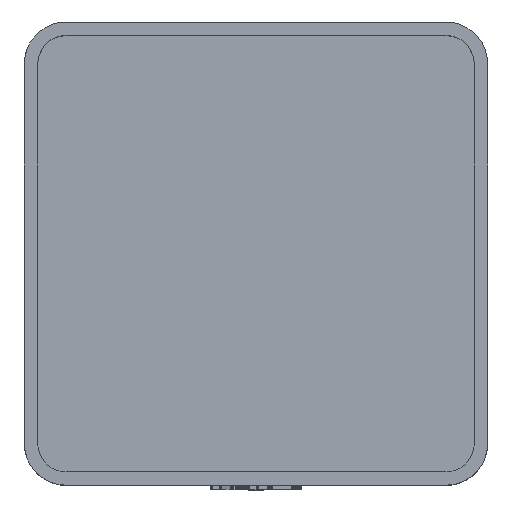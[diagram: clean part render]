
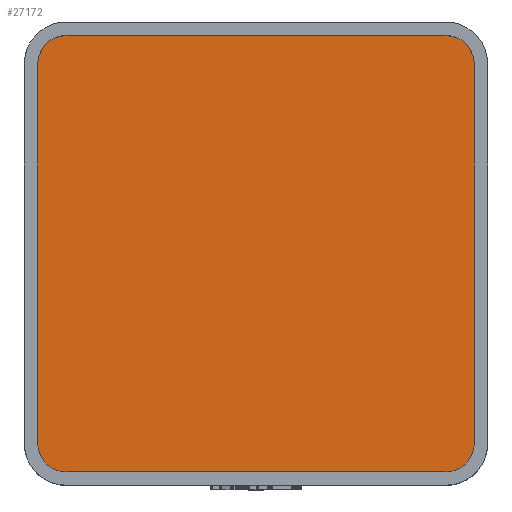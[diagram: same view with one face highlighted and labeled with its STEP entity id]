
A CAD part, top view. The second image highlights one B-rep face of the part: STEP entity #27172.
In plain terms, the highlighted planar face has unit normal (0, 0, 1).
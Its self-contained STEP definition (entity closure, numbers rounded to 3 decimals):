
#1442 = PLANE('',#1443);
#1443 = AXIS2_PLACEMENT_3D('',#1444,#1445,#1446);
#1444 = CARTESIAN_POINT('',(-19.55,-17.,4.75));
#1445 = DIRECTION('',(-1.,0.,0.));
#1446 = DIRECTION('',(0.,1.,0.));
#1474 = CYLINDRICAL_SURFACE('',#1475,2.55);
#1475 = AXIS2_PLACEMENT_3D('',#1476,#1477,#1478);
#1476 = CARTESIAN_POINT('',(-17.,17.,4.75));
#1477 = DIRECTION('',(-0.,-0.,-1.));
#1478 = DIRECTION('',(1.,0.,0.));
#1501 = PLANE('',#1502);
#1502 = AXIS2_PLACEMENT_3D('',#1503,#1504,#1505);
#1503 = CARTESIAN_POINT('',(-17.,19.55,4.75));
#1504 = DIRECTION('',(0.,1.,0.));
#1505 = DIRECTION('',(1.,0.,0.));
#1533 = CYLINDRICAL_SURFACE('',#1534,2.55);
#1534 = AXIS2_PLACEMENT_3D('',#1535,#1536,#1537);
#1535 = CARTESIAN_POINT('',(17.,17.,4.75));
#1536 = DIRECTION('',(-0.,-0.,-1.));
#1537 = DIRECTION('',(1.,0.,0.));
#1560 = PLANE('',#1561);
#1561 = AXIS2_PLACEMENT_3D('',#1562,#1563,#1564);
#1562 = CARTESIAN_POINT('',(19.55,-17.,4.75));
#1563 = DIRECTION('',(-1.,0.,0.));
#1564 = DIRECTION('',(0.,1.,0.));
#1592 = CYLINDRICAL_SURFACE('',#1593,2.55);
#1593 = AXIS2_PLACEMENT_3D('',#1594,#1595,#1596);
#1594 = CARTESIAN_POINT('',(17.,-17.,4.75));
#1595 = DIRECTION('',(-0.,-0.,-1.));
#1596 = DIRECTION('',(1.,0.,0.));
#1619 = PLANE('',#1620);
#1620 = AXIS2_PLACEMENT_3D('',#1621,#1622,#1623);
#1621 = CARTESIAN_POINT('',(-17.,-19.55,4.75));
#1622 = DIRECTION('',(0.,1.,0.));
#1623 = DIRECTION('',(1.,0.,0.));
#1649 = CYLINDRICAL_SURFACE('',#1650,2.55);
#1650 = AXIS2_PLACEMENT_3D('',#1651,#1652,#1653);
#1651 = CARTESIAN_POINT('',(-17.,-17.,4.75));
#1652 = DIRECTION('',(-0.,-0.,-1.));
#1653 = DIRECTION('',(1.,0.,0.));
#10443 = EDGE_CURVE('',#10444,#10446,#10448,.T.);
#10444 = VERTEX_POINT('',#10445);
#10445 = CARTESIAN_POINT('',(-19.55,-17.,4.75));
#10446 = VERTEX_POINT('',#10447);
#10447 = CARTESIAN_POINT('',(-19.55,17.,4.75));
#10448 = SURFACE_CURVE('',#10449,(#10453,#10460),.PCURVE_S1.);
#10449 = LINE('',#10450,#10451);
#10450 = CARTESIAN_POINT('',(-19.55,0.,4.75));
#10451 = VECTOR('',#10452,1.);
#10452 = DIRECTION('',(0.,1.,0.));
#10453 = PCURVE('',#1442,#10454);
#10454 = DEFINITIONAL_REPRESENTATION('',(#10455),#10459);
#10455 = LINE('',#10456,#10457);
#10456 = CARTESIAN_POINT('',(17.,0.));
#10457 = VECTOR('',#10458,1.);
#10458 = DIRECTION('',(1.,0.));
#10459 = ( GEOMETRIC_REPRESENTATION_CONTEXT(2) 
PARAMETRIC_REPRESENTATION_CONTEXT() REPRESENTATION_CONTEXT('2D SPACE',''
  ) );
#10460 = PCURVE('',#10461,#10466);
#10461 = PLANE('',#10462);
#10462 = AXIS2_PLACEMENT_3D('',#10463,#10464,#10465);
#10463 = CARTESIAN_POINT('',(0.,0.,4.75
    ));
#10464 = DIRECTION('',(0.,0.,1.));
#10465 = DIRECTION('',(1.,0.,-0.));
#10466 = DEFINITIONAL_REPRESENTATION('',(#10467),#10471);
#10467 = LINE('',#10468,#10469);
#10468 = CARTESIAN_POINT('',(-19.55,0.));
#10469 = VECTOR('',#10470,1.);
#10470 = DIRECTION('',(0.,1.));
#10471 = ( GEOMETRIC_REPRESENTATION_CONTEXT(2) 
PARAMETRIC_REPRESENTATION_CONTEXT() REPRESENTATION_CONTEXT('2D SPACE',''
  ) );
#10519 = EDGE_CURVE('',#10444,#10520,#10522,.T.);
#10520 = VERTEX_POINT('',#10521);
#10521 = CARTESIAN_POINT('',(-17.,-19.55,4.75));
#10522 = SURFACE_CURVE('',#10523,(#10528,#10535),.PCURVE_S1.);
#10523 = CIRCLE('',#10524,2.55);
#10524 = AXIS2_PLACEMENT_3D('',#10525,#10526,#10527);
#10525 = CARTESIAN_POINT('',(-17.,-17.,4.75));
#10526 = DIRECTION('',(0.,0.,1.));
#10527 = DIRECTION('',(1.,0.,0.));
#10528 = PCURVE('',#1649,#10529);
#10529 = DEFINITIONAL_REPRESENTATION('',(#10530),#10534);
#10530 = LINE('',#10531,#10532);
#10531 = CARTESIAN_POINT('',(-0.,0.));
#10532 = VECTOR('',#10533,1.);
#10533 = DIRECTION('',(-1.,0.));
#10534 = ( GEOMETRIC_REPRESENTATION_CONTEXT(2) 
PARAMETRIC_REPRESENTATION_CONTEXT() REPRESENTATION_CONTEXT('2D SPACE',''
  ) );
#10535 = PCURVE('',#10461,#10536);
#10536 = DEFINITIONAL_REPRESENTATION('',(#10537),#10541);
#10537 = CIRCLE('',#10538,2.55);
#10538 = AXIS2_PLACEMENT_2D('',#10539,#10540);
#10539 = CARTESIAN_POINT('',(-17.,-17.));
#10540 = DIRECTION('',(1.,0.));
#10541 = ( GEOMETRIC_REPRESENTATION_CONTEXT(2) 
PARAMETRIC_REPRESENTATION_CONTEXT() REPRESENTATION_CONTEXT('2D SPACE',''
  ) );
#10569 = EDGE_CURVE('',#10520,#10570,#10572,.T.);
#10570 = VERTEX_POINT('',#10571);
#10571 = CARTESIAN_POINT('',(17.,-19.55,4.75));
#10572 = SURFACE_CURVE('',#10573,(#10577,#10584),.PCURVE_S1.);
#10573 = LINE('',#10574,#10575);
#10574 = CARTESIAN_POINT('',(0.,-19.55,4.75));
#10575 = VECTOR('',#10576,1.);
#10576 = DIRECTION('',(1.,0.,0.));
#10577 = PCURVE('',#1619,#10578);
#10578 = DEFINITIONAL_REPRESENTATION('',(#10579),#10583);
#10579 = LINE('',#10580,#10581);
#10580 = CARTESIAN_POINT('',(17.,0.));
#10581 = VECTOR('',#10582,1.);
#10582 = DIRECTION('',(1.,0.));
#10583 = ( GEOMETRIC_REPRESENTATION_CONTEXT(2) 
PARAMETRIC_REPRESENTATION_CONTEXT() REPRESENTATION_CONTEXT('2D SPACE',''
  ) );
#10584 = PCURVE('',#10461,#10585);
#10585 = DEFINITIONAL_REPRESENTATION('',(#10586),#10590);
#10586 = LINE('',#10587,#10588);
#10587 = CARTESIAN_POINT('',(0.,-19.55));
#10588 = VECTOR('',#10589,1.);
#10589 = DIRECTION('',(1.,0.));
#10590 = ( GEOMETRIC_REPRESENTATION_CONTEXT(2) 
PARAMETRIC_REPRESENTATION_CONTEXT() REPRESENTATION_CONTEXT('2D SPACE',''
  ) );
#10618 = EDGE_CURVE('',#10570,#10619,#10621,.T.);
#10619 = VERTEX_POINT('',#10620);
#10620 = CARTESIAN_POINT('',(19.55,-17.,4.75));
#10621 = SURFACE_CURVE('',#10622,(#10627,#10634),.PCURVE_S1.);
#10622 = CIRCLE('',#10623,2.55);
#10623 = AXIS2_PLACEMENT_3D('',#10624,#10625,#10626);
#10624 = CARTESIAN_POINT('',(17.,-17.,4.75));
#10625 = DIRECTION('',(0.,0.,1.));
#10626 = DIRECTION('',(1.,0.,0.));
#10627 = PCURVE('',#1592,#10628);
#10628 = DEFINITIONAL_REPRESENTATION('',(#10629),#10633);
#10629 = LINE('',#10630,#10631);
#10630 = CARTESIAN_POINT('',(-0.,0.));
#10631 = VECTOR('',#10632,1.);
#10632 = DIRECTION('',(-1.,0.));
#10633 = ( GEOMETRIC_REPRESENTATION_CONTEXT(2) 
PARAMETRIC_REPRESENTATION_CONTEXT() REPRESENTATION_CONTEXT('2D SPACE',''
  ) );
#10634 = PCURVE('',#10461,#10635);
#10635 = DEFINITIONAL_REPRESENTATION('',(#10636),#10640);
#10636 = CIRCLE('',#10637,2.55);
#10637 = AXIS2_PLACEMENT_2D('',#10638,#10639);
#10638 = CARTESIAN_POINT('',(17.,-17.));
#10639 = DIRECTION('',(1.,0.));
#10640 = ( GEOMETRIC_REPRESENTATION_CONTEXT(2) 
PARAMETRIC_REPRESENTATION_CONTEXT() REPRESENTATION_CONTEXT('2D SPACE',''
  ) );
#10668 = EDGE_CURVE('',#10619,#10669,#10671,.T.);
#10669 = VERTEX_POINT('',#10670);
#10670 = CARTESIAN_POINT('',(19.55,17.,4.75));
#10671 = SURFACE_CURVE('',#10672,(#10676,#10683),.PCURVE_S1.);
#10672 = LINE('',#10673,#10674);
#10673 = CARTESIAN_POINT('',(19.55,0.,4.75));
#10674 = VECTOR('',#10675,1.);
#10675 = DIRECTION('',(0.,1.,0.));
#10676 = PCURVE('',#1560,#10677);
#10677 = DEFINITIONAL_REPRESENTATION('',(#10678),#10682);
#10678 = LINE('',#10679,#10680);
#10679 = CARTESIAN_POINT('',(17.,0.));
#10680 = VECTOR('',#10681,1.);
#10681 = DIRECTION('',(1.,0.));
#10682 = ( GEOMETRIC_REPRESENTATION_CONTEXT(2) 
PARAMETRIC_REPRESENTATION_CONTEXT() REPRESENTATION_CONTEXT('2D SPACE',''
  ) );
#10683 = PCURVE('',#10461,#10684);
#10684 = DEFINITIONAL_REPRESENTATION('',(#10685),#10689);
#10685 = LINE('',#10686,#10687);
#10686 = CARTESIAN_POINT('',(19.55,0.));
#10687 = VECTOR('',#10688,1.);
#10688 = DIRECTION('',(0.,1.));
#10689 = ( GEOMETRIC_REPRESENTATION_CONTEXT(2) 
PARAMETRIC_REPRESENTATION_CONTEXT() REPRESENTATION_CONTEXT('2D SPACE',''
  ) );
#10717 = EDGE_CURVE('',#10669,#10718,#10720,.T.);
#10718 = VERTEX_POINT('',#10719);
#10719 = CARTESIAN_POINT('',(17.,19.55,4.75));
#10720 = SURFACE_CURVE('',#10721,(#10726,#10733),.PCURVE_S1.);
#10721 = CIRCLE('',#10722,2.55);
#10722 = AXIS2_PLACEMENT_3D('',#10723,#10724,#10725);
#10723 = CARTESIAN_POINT('',(17.,17.,4.75));
#10724 = DIRECTION('',(0.,0.,1.));
#10725 = DIRECTION('',(1.,0.,0.));
#10726 = PCURVE('',#1533,#10727);
#10727 = DEFINITIONAL_REPRESENTATION('',(#10728),#10732);
#10728 = LINE('',#10729,#10730);
#10729 = CARTESIAN_POINT('',(-0.,0.));
#10730 = VECTOR('',#10731,1.);
#10731 = DIRECTION('',(-1.,0.));
#10732 = ( GEOMETRIC_REPRESENTATION_CONTEXT(2) 
PARAMETRIC_REPRESENTATION_CONTEXT() REPRESENTATION_CONTEXT('2D SPACE',''
  ) );
#10733 = PCURVE('',#10461,#10734);
#10734 = DEFINITIONAL_REPRESENTATION('',(#10735),#10739);
#10735 = CIRCLE('',#10736,2.55);
#10736 = AXIS2_PLACEMENT_2D('',#10737,#10738);
#10737 = CARTESIAN_POINT('',(17.,17.));
#10738 = DIRECTION('',(1.,0.));
#10739 = ( GEOMETRIC_REPRESENTATION_CONTEXT(2) 
PARAMETRIC_REPRESENTATION_CONTEXT() REPRESENTATION_CONTEXT('2D SPACE',''
  ) );
#10767 = EDGE_CURVE('',#10768,#10718,#10770,.T.);
#10768 = VERTEX_POINT('',#10769);
#10769 = CARTESIAN_POINT('',(-17.,19.55,4.75));
#10770 = SURFACE_CURVE('',#10771,(#10775,#10782),.PCURVE_S1.);
#10771 = LINE('',#10772,#10773);
#10772 = CARTESIAN_POINT('',(0.,19.55,4.75));
#10773 = VECTOR('',#10774,1.);
#10774 = DIRECTION('',(1.,0.,0.));
#10775 = PCURVE('',#1501,#10776);
#10776 = DEFINITIONAL_REPRESENTATION('',(#10777),#10781);
#10777 = LINE('',#10778,#10779);
#10778 = CARTESIAN_POINT('',(17.,0.));
#10779 = VECTOR('',#10780,1.);
#10780 = DIRECTION('',(1.,0.));
#10781 = ( GEOMETRIC_REPRESENTATION_CONTEXT(2) 
PARAMETRIC_REPRESENTATION_CONTEXT() REPRESENTATION_CONTEXT('2D SPACE',''
  ) );
#10782 = PCURVE('',#10461,#10783);
#10783 = DEFINITIONAL_REPRESENTATION('',(#10784),#10788);
#10784 = LINE('',#10785,#10786);
#10785 = CARTESIAN_POINT('',(0.,19.55));
#10786 = VECTOR('',#10787,1.);
#10787 = DIRECTION('',(1.,0.));
#10788 = ( GEOMETRIC_REPRESENTATION_CONTEXT(2) 
PARAMETRIC_REPRESENTATION_CONTEXT() REPRESENTATION_CONTEXT('2D SPACE',''
  ) );
#10816 = EDGE_CURVE('',#10768,#10446,#10817,.T.);
#10817 = SURFACE_CURVE('',#10818,(#10823,#10830),.PCURVE_S1.);
#10818 = CIRCLE('',#10819,2.55);
#10819 = AXIS2_PLACEMENT_3D('',#10820,#10821,#10822);
#10820 = CARTESIAN_POINT('',(-17.,17.,4.75));
#10821 = DIRECTION('',(0.,0.,1.));
#10822 = DIRECTION('',(1.,0.,0.));
#10823 = PCURVE('',#1474,#10824);
#10824 = DEFINITIONAL_REPRESENTATION('',(#10825),#10829);
#10825 = LINE('',#10826,#10827);
#10826 = CARTESIAN_POINT('',(-0.,0.));
#10827 = VECTOR('',#10828,1.);
#10828 = DIRECTION('',(-1.,0.));
#10829 = ( GEOMETRIC_REPRESENTATION_CONTEXT(2) 
PARAMETRIC_REPRESENTATION_CONTEXT() REPRESENTATION_CONTEXT('2D SPACE',''
  ) );
#10830 = PCURVE('',#10461,#10831);
#10831 = DEFINITIONAL_REPRESENTATION('',(#10832),#10836);
#10832 = CIRCLE('',#10833,2.55);
#10833 = AXIS2_PLACEMENT_2D('',#10834,#10835);
#10834 = CARTESIAN_POINT('',(-17.,17.));
#10835 = DIRECTION('',(1.,0.));
#10836 = ( GEOMETRIC_REPRESENTATION_CONTEXT(2) 
PARAMETRIC_REPRESENTATION_CONTEXT() REPRESENTATION_CONTEXT('2D SPACE',''
  ) );
#27172 = ADVANCED_FACE('',(#27173),#10461,.T.);
#27173 = FACE_BOUND('',#27174,.T.);
#27174 = EDGE_LOOP('',(#27175,#27176,#27177,#27178,#27179,#27180,#27181,
    #27182));
#27175 = ORIENTED_EDGE('',*,*,#10443,.F.);
#27176 = ORIENTED_EDGE('',*,*,#10519,.T.);
#27177 = ORIENTED_EDGE('',*,*,#10569,.T.);
#27178 = ORIENTED_EDGE('',*,*,#10618,.T.);
#27179 = ORIENTED_EDGE('',*,*,#10668,.T.);
#27180 = ORIENTED_EDGE('',*,*,#10717,.T.);
#27181 = ORIENTED_EDGE('',*,*,#10767,.F.);
#27182 = ORIENTED_EDGE('',*,*,#10816,.T.);
